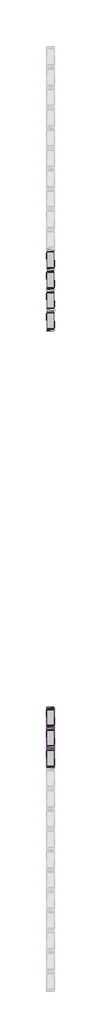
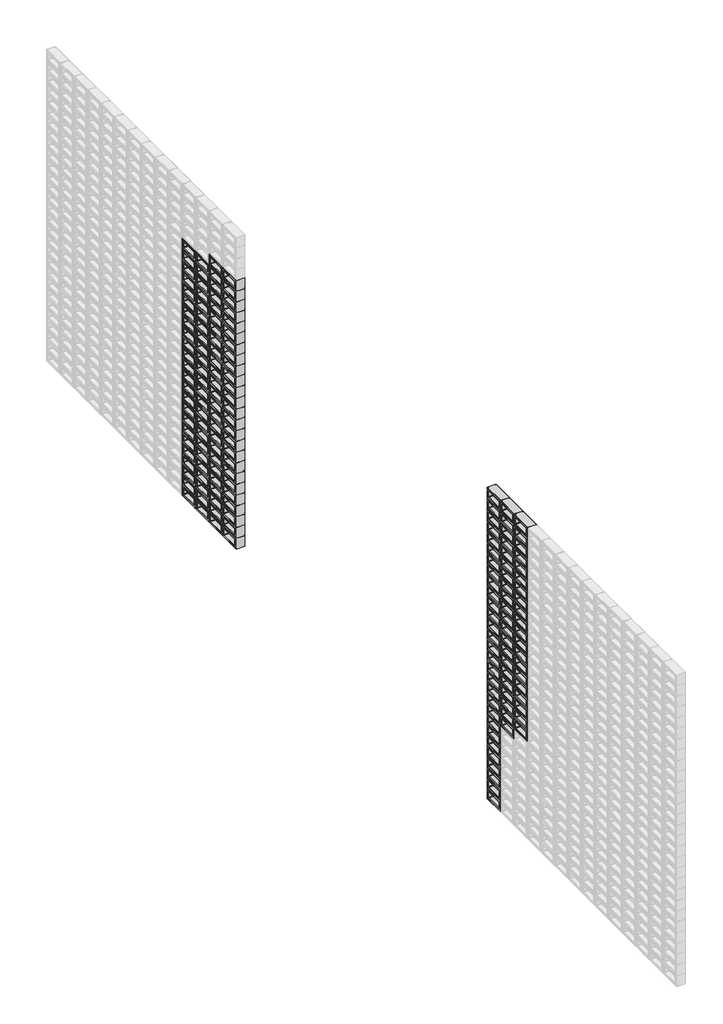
# One storey, part 3 of 59: 168 plates.
"""IFC4 building model written with IfcOpenShell, lengths in millimetres."""

from ifc_helpers import new_model, si_unit, origin, place, context, project, spatial, transform, mapped, element, save
from components import plate_12236348

model = new_model("IFC4")

# Units and contexts
model_context = context("Model", 3, world=origin())
ifc_project = project(units=[si_unit("LENGTHUNIT", "METRE", prefix="MILLI")], contexts=[model_context])

# Site, building, storey
site = spatial("IfcSite", under=ifc_project)
building = spatial("IfcBuilding", under=site)
storey = spatial("IfcBuildingStorey", under=building, Name="PORTOBELLO - SHOWROOM", Elevation=0.0)

# Plates
placement = place(None, origin())
plate_shape = plate_12236348(model_context)
element("IfcPlate", 1, ObjectType="PBSHOP - ON FIRE PEPPERMINT 9X19 (PAINEL CORTINA) : PEPPERMINT", at=placement, inside=storey, context=model_context, shape_type="MappedRepresentation", body=[
    mapped(plate_shape, transform((-33705.5633853, -2683.9877275, 0.0), x_axis=(0.0, 1.0, 0.0), y_axis=(-1.0, 0.0, 0.0), z_axis=(0.0, 0.0, 1.0))),
])
element("IfcPlate", 2, ObjectType="PBSHOP - ON FIRE PEPPERMINT 9X19 (PAINEL CORTINA) : PEPPERMINT", at=placement, inside=storey, context=model_context, shape_type="MappedRepresentation", body=[
    mapped(plate_shape, transform((-33705.5633853, -2489.9877273, 0.0), x_axis=(0.0, 1.0, 0.0), y_axis=(-1.0, 0.0, 0.0), z_axis=(0.0, 0.0, 1.0))),
])
element("IfcPlate", 3, ObjectType="PBSHOP - ON FIRE PEPPERMINT 9X19 (PAINEL CORTINA) : PEPPERMINT", at=placement, inside=storey, context=model_context, shape_type="MappedRepresentation", body=[
    mapped(plate_shape, transform((-33705.5633853, -2295.9877273, 0.0), x_axis=(0.0, 1.0, 0.0), y_axis=(-1.0, 0.0, 0.0), z_axis=(0.0, 0.0, 1.0))),
])
element("IfcPlate", 4, ObjectType="PBSHOP - ON FIRE PEPPERMINT 9X19 (PAINEL CORTINA) : PEPPERMINT", at=placement, inside=storey, context=model_context, shape_type="MappedRepresentation", body=[
    mapped(plate_shape, transform((-33705.5633853, -2101.9877273, 0.0), x_axis=(0.0, 1.0, 0.0), y_axis=(-1.0, 0.0, 0.0), z_axis=(0.0, 0.0, 1.0))),
])
element("IfcPlate", 5, ObjectType="PBSHOP - ON FIRE PEPPERMINT 9X19 (PAINEL CORTINA) : PEPPERMINT", at=placement, inside=storey, context=model_context, shape_type="MappedRepresentation", body=[
    mapped(plate_shape, transform((-33705.5633853, -2683.9877275, 94.0), x_axis=(0.0, 1.0, 0.0), y_axis=(-1.0, 0.0, 0.0), z_axis=(0.0, 0.0, 1.0))),
])
element("IfcPlate", 6, ObjectType="PBSHOP - ON FIRE PEPPERMINT 9X19 (PAINEL CORTINA) : PEPPERMINT", at=placement, inside=storey, context=model_context, shape_type="MappedRepresentation", body=[
    mapped(plate_shape, transform((-33705.5633853, -2489.9877273, 94.0), x_axis=(0.0, 1.0, 0.0), y_axis=(-1.0, 0.0, 0.0), z_axis=(0.0, 0.0, 1.0))),
])
element("IfcPlate", 7, ObjectType="PBSHOP - ON FIRE PEPPERMINT 9X19 (PAINEL CORTINA) : PEPPERMINT", at=placement, inside=storey, context=model_context, shape_type="MappedRepresentation", body=[
    mapped(plate_shape, transform((-33705.5633853, -2295.9877273, 94.0), x_axis=(0.0, 1.0, 0.0), y_axis=(-1.0, 0.0, 0.0), z_axis=(0.0, 0.0, 1.0))),
])
element("IfcPlate", 8, ObjectType="PBSHOP - ON FIRE PEPPERMINT 9X19 (PAINEL CORTINA) : PEPPERMINT", at=placement, inside=storey, context=model_context, shape_type="MappedRepresentation", body=[
    mapped(plate_shape, transform((-33705.5633853, -2101.9877273, 94.0), x_axis=(0.0, 1.0, 0.0), y_axis=(-1.0, 0.0, 0.0), z_axis=(0.0, 0.0, 1.0))),
])
element("IfcPlate", 9, ObjectType="PBSHOP - ON FIRE PEPPERMINT 9X19 (PAINEL CORTINA) : PEPPERMINT", at=placement, inside=storey, context=model_context, shape_type="MappedRepresentation", body=[
    mapped(plate_shape, transform((-33705.5633853, -2683.9877275, 188.0), x_axis=(0.0, 1.0, 0.0), y_axis=(-1.0, 0.0, 0.0), z_axis=(0.0, 0.0, 1.0))),
])
element("IfcPlate", 10, ObjectType="PBSHOP - ON FIRE PEPPERMINT 9X19 (PAINEL CORTINA) : PEPPERMINT", at=placement, inside=storey, context=model_context, shape_type="MappedRepresentation", body=[
    mapped(plate_shape, transform((-33705.5633853, -2489.9877273, 188.0), x_axis=(0.0, 1.0, 0.0), y_axis=(-1.0, 0.0, 0.0), z_axis=(0.0, 0.0, 1.0))),
])
element("IfcPlate", 11, ObjectType="PBSHOP - ON FIRE PEPPERMINT 9X19 (PAINEL CORTINA) : PEPPERMINT", at=placement, inside=storey, context=model_context, shape_type="MappedRepresentation", body=[
    mapped(plate_shape, transform((-33705.5633853, -2295.9877273, 188.0), x_axis=(0.0, 1.0, 0.0), y_axis=(-1.0, 0.0, 0.0), z_axis=(0.0, 0.0, 1.0))),
])
element("IfcPlate", 12, ObjectType="PBSHOP - ON FIRE PEPPERMINT 9X19 (PAINEL CORTINA) : PEPPERMINT", at=placement, inside=storey, context=model_context, shape_type="MappedRepresentation", body=[
    mapped(plate_shape, transform((-33705.5633853, -2101.9877273, 188.0), x_axis=(0.0, 1.0, 0.0), y_axis=(-1.0, 0.0, 0.0), z_axis=(0.0, 0.0, 1.0))),
])
element("IfcPlate", 13, ObjectType="PBSHOP - ON FIRE PEPPERMINT 9X19 (PAINEL CORTINA) : PEPPERMINT", at=placement, inside=storey, context=model_context, shape_type="MappedRepresentation", body=[
    mapped(plate_shape, transform((-33705.5633853, -2683.9877275, 282.0), x_axis=(0.0, 1.0, 0.0), y_axis=(-1.0, 0.0, 0.0), z_axis=(0.0, 0.0, 1.0))),
])
element("IfcPlate", 14, ObjectType="PBSHOP - ON FIRE PEPPERMINT 9X19 (PAINEL CORTINA) : PEPPERMINT", at=placement, inside=storey, context=model_context, shape_type="MappedRepresentation", body=[
    mapped(plate_shape, transform((-33705.5633853, -2489.9877273, 282.0), x_axis=(0.0, 1.0, 0.0), y_axis=(-1.0, 0.0, 0.0), z_axis=(0.0, 0.0, 1.0))),
])
element("IfcPlate", 15, ObjectType="PBSHOP - ON FIRE PEPPERMINT 9X19 (PAINEL CORTINA) : PEPPERMINT", at=placement, inside=storey, context=model_context, shape_type="MappedRepresentation", body=[
    mapped(plate_shape, transform((-33705.5633853, -2295.9877273, 282.0), x_axis=(0.0, 1.0, 0.0), y_axis=(-1.0, 0.0, 0.0), z_axis=(0.0, 0.0, 1.0))),
])
element("IfcPlate", 16, ObjectType="PBSHOP - ON FIRE PEPPERMINT 9X19 (PAINEL CORTINA) : PEPPERMINT", at=placement, inside=storey, context=model_context, shape_type="MappedRepresentation", body=[
    mapped(plate_shape, transform((-33705.5633853, -2101.9877273, 282.0), x_axis=(0.0, 1.0, 0.0), y_axis=(-1.0, 0.0, 0.0), z_axis=(0.0, 0.0, 1.0))),
])
element("IfcPlate", 17, ObjectType="PBSHOP - ON FIRE PEPPERMINT 9X19 (PAINEL CORTINA) : PEPPERMINT", at=placement, inside=storey, context=model_context, shape_type="MappedRepresentation", body=[
    mapped(plate_shape, transform((-33705.5633853, -2683.9877275, 376.0), x_axis=(0.0, 1.0, 0.0), y_axis=(-1.0, 0.0, 0.0), z_axis=(0.0, 0.0, 1.0))),
])
element("IfcPlate", 18, ObjectType="PBSHOP - ON FIRE PEPPERMINT 9X19 (PAINEL CORTINA) : PEPPERMINT", at=placement, inside=storey, context=model_context, shape_type="MappedRepresentation", body=[
    mapped(plate_shape, transform((-33705.5633853, -2489.9877273, 376.0), x_axis=(0.0, 1.0, 0.0), y_axis=(-1.0, 0.0, 0.0), z_axis=(0.0, 0.0, 1.0))),
])
element("IfcPlate", 19, ObjectType="PBSHOP - ON FIRE PEPPERMINT 9X19 (PAINEL CORTINA) : PEPPERMINT", at=placement, inside=storey, context=model_context, shape_type="MappedRepresentation", body=[
    mapped(plate_shape, transform((-33705.5633853, -2295.9877273, 376.0), x_axis=(0.0, 1.0, 0.0), y_axis=(-1.0, 0.0, 0.0), z_axis=(0.0, 0.0, 1.0))),
])
element("IfcPlate", 20, ObjectType="PBSHOP - ON FIRE PEPPERMINT 9X19 (PAINEL CORTINA) : PEPPERMINT", at=placement, inside=storey, context=model_context, shape_type="MappedRepresentation", body=[
    mapped(plate_shape, transform((-33705.5633853, -2101.9877273, 376.0), x_axis=(0.0, 1.0, 0.0), y_axis=(-1.0, 0.0, 0.0), z_axis=(0.0, 0.0, 1.0))),
])
element("IfcPlate", 21, ObjectType="PBSHOP - ON FIRE PEPPERMINT 9X19 (PAINEL CORTINA) : PEPPERMINT", at=placement, inside=storey, context=model_context, shape_type="MappedRepresentation", body=[
    mapped(plate_shape, transform((-33705.5633853, -2683.9877275, 470.0), x_axis=(0.0, 1.0, 0.0), y_axis=(-1.0, 0.0, 0.0), z_axis=(0.0, 0.0, 1.0))),
])
element("IfcPlate", 22, ObjectType="PBSHOP - ON FIRE PEPPERMINT 9X19 (PAINEL CORTINA) : PEPPERMINT", at=placement, inside=storey, context=model_context, shape_type="MappedRepresentation", body=[
    mapped(plate_shape, transform((-33705.5633853, -2489.9877273, 470.0), x_axis=(0.0, 1.0, 0.0), y_axis=(-1.0, 0.0, 0.0), z_axis=(0.0, 0.0, 1.0))),
])
element("IfcPlate", 23, ObjectType="PBSHOP - ON FIRE PEPPERMINT 9X19 (PAINEL CORTINA) : PEPPERMINT", at=placement, inside=storey, context=model_context, shape_type="MappedRepresentation", body=[
    mapped(plate_shape, transform((-33705.5633853, -2295.9877273, 470.0), x_axis=(0.0, 1.0, 0.0), y_axis=(-1.0, 0.0, 0.0), z_axis=(0.0, 0.0, 1.0))),
])
element("IfcPlate", 24, ObjectType="PBSHOP - ON FIRE PEPPERMINT 9X19 (PAINEL CORTINA) : PEPPERMINT", at=placement, inside=storey, context=model_context, shape_type="MappedRepresentation", body=[
    mapped(plate_shape, transform((-33705.5633853, -2101.9877273, 470.0), x_axis=(0.0, 1.0, 0.0), y_axis=(-1.0, 0.0, 0.0), z_axis=(0.0, 0.0, 1.0))),
])
element("IfcPlate", 25, ObjectType="PBSHOP - ON FIRE PEPPERMINT 9X19 (PAINEL CORTINA) : PEPPERMINT", at=placement, inside=storey, context=model_context, shape_type="MappedRepresentation", body=[
    mapped(plate_shape, transform((-33705.5633853, -2683.9877275, 564.0), x_axis=(0.0, 1.0, 0.0), y_axis=(-1.0, 0.0, 0.0), z_axis=(0.0, 0.0, 1.0))),
])
element("IfcPlate", 26, ObjectType="PBSHOP - ON FIRE PEPPERMINT 9X19 (PAINEL CORTINA) : PEPPERMINT", at=placement, inside=storey, context=model_context, shape_type="MappedRepresentation", body=[
    mapped(plate_shape, transform((-33705.5633853, -2489.9877273, 564.0), x_axis=(0.0, 1.0, 0.0), y_axis=(-1.0, 0.0, 0.0), z_axis=(0.0, 0.0, 1.0))),
])
element("IfcPlate", 27, ObjectType="PBSHOP - ON FIRE PEPPERMINT 9X19 (PAINEL CORTINA) : PEPPERMINT", at=placement, inside=storey, context=model_context, shape_type="MappedRepresentation", body=[
    mapped(plate_shape, transform((-33705.5633853, -2295.9877273, 564.0), x_axis=(0.0, 1.0, 0.0), y_axis=(-1.0, 0.0, 0.0), z_axis=(0.0, 0.0, 1.0))),
])
element("IfcPlate", 28, ObjectType="PBSHOP - ON FIRE PEPPERMINT 9X19 (PAINEL CORTINA) : PEPPERMINT", at=placement, inside=storey, context=model_context, shape_type="MappedRepresentation", body=[
    mapped(plate_shape, transform((-33705.5633853, -2101.9877273, 564.0), x_axis=(0.0, 1.0, 0.0), y_axis=(-1.0, 0.0, 0.0), z_axis=(0.0, 0.0, 1.0))),
])
element("IfcPlate", 29, ObjectType="PBSHOP - ON FIRE PEPPERMINT 9X19 (PAINEL CORTINA) : PEPPERMINT", at=placement, inside=storey, context=model_context, shape_type="MappedRepresentation", body=[
    mapped(plate_shape, transform((-33705.5633853, -2683.9877275, 658.0), x_axis=(0.0, 1.0, 0.0), y_axis=(-1.0, 0.0, 0.0), z_axis=(0.0, 0.0, 1.0))),
])
element("IfcPlate", 30, ObjectType="PBSHOP - ON FIRE PEPPERMINT 9X19 (PAINEL CORTINA) : PEPPERMINT", at=placement, inside=storey, context=model_context, shape_type="MappedRepresentation", body=[
    mapped(plate_shape, transform((-33705.5633853, -2489.9877273, 658.0), x_axis=(0.0, 1.0, 0.0), y_axis=(-1.0, 0.0, 0.0), z_axis=(0.0, 0.0, 1.0))),
])
element("IfcPlate", 31, ObjectType="PBSHOP - ON FIRE PEPPERMINT 9X19 (PAINEL CORTINA) : PEPPERMINT", at=placement, inside=storey, context=model_context, shape_type="MappedRepresentation", body=[
    mapped(plate_shape, transform((-33705.5633853, -2295.9877273, 658.0), x_axis=(0.0, 1.0, 0.0), y_axis=(-1.0, 0.0, 0.0), z_axis=(0.0, 0.0, 1.0))),
])
element("IfcPlate", 32, ObjectType="PBSHOP - ON FIRE PEPPERMINT 9X19 (PAINEL CORTINA) : PEPPERMINT", at=placement, inside=storey, context=model_context, shape_type="MappedRepresentation", body=[
    mapped(plate_shape, transform((-33705.5633853, -2101.9877273, 658.0), x_axis=(0.0, 1.0, 0.0), y_axis=(-1.0, 0.0, 0.0), z_axis=(0.0, 0.0, 1.0))),
])
element("IfcPlate", 33, ObjectType="PBSHOP - ON FIRE PEPPERMINT 9X19 (PAINEL CORTINA) : PEPPERMINT", at=placement, inside=storey, context=model_context, shape_type="MappedRepresentation", body=[
    mapped(plate_shape, transform((-33705.5633853, -2683.9877275, 752.0), x_axis=(0.0, 1.0, 0.0), y_axis=(-1.0, 0.0, 0.0), z_axis=(0.0, 0.0, 1.0))),
])
element("IfcPlate", 34, ObjectType="PBSHOP - ON FIRE PEPPERMINT 9X19 (PAINEL CORTINA) : PEPPERMINT", at=placement, inside=storey, context=model_context, shape_type="MappedRepresentation", body=[
    mapped(plate_shape, transform((-33705.5633853, -2489.9877273, 752.0), x_axis=(0.0, 1.0, 0.0), y_axis=(-1.0, 0.0, 0.0), z_axis=(0.0, 0.0, 1.0))),
])
element("IfcPlate", 35, ObjectType="PBSHOP - ON FIRE PEPPERMINT 9X19 (PAINEL CORTINA) : PEPPERMINT", at=placement, inside=storey, context=model_context, shape_type="MappedRepresentation", body=[
    mapped(plate_shape, transform((-33705.5633853, -2295.9877273, 752.0), x_axis=(0.0, 1.0, 0.0), y_axis=(-1.0, 0.0, 0.0), z_axis=(0.0, 0.0, 1.0))),
])
element("IfcPlate", 36, ObjectType="PBSHOP - ON FIRE PEPPERMINT 9X19 (PAINEL CORTINA) : PEPPERMINT", at=placement, inside=storey, context=model_context, shape_type="MappedRepresentation", body=[
    mapped(plate_shape, transform((-33705.5633853, -2101.9877273, 752.0), x_axis=(0.0, 1.0, 0.0), y_axis=(-1.0, 0.0, 0.0), z_axis=(0.0, 0.0, 1.0))),
])
element("IfcPlate", 37, ObjectType="PBSHOP - ON FIRE PEPPERMINT 9X19 (PAINEL CORTINA) : PEPPERMINT", at=placement, inside=storey, context=model_context, shape_type="MappedRepresentation", body=[
    mapped(plate_shape, transform((-33705.5633853, -2683.9877275, 846.0), x_axis=(0.0, 1.0, 0.0), y_axis=(-1.0, 0.0, 0.0), z_axis=(0.0, 0.0, 1.0))),
])
element("IfcPlate", 38, ObjectType="PBSHOP - ON FIRE PEPPERMINT 9X19 (PAINEL CORTINA) : PEPPERMINT", at=placement, inside=storey, context=model_context, shape_type="MappedRepresentation", body=[
    mapped(plate_shape, transform((-33705.5633853, -2489.9877273, 846.0), x_axis=(0.0, 1.0, 0.0), y_axis=(-1.0, 0.0, 0.0), z_axis=(0.0, 0.0, 1.0))),
])
element("IfcPlate", 39, ObjectType="PBSHOP - ON FIRE PEPPERMINT 9X19 (PAINEL CORTINA) : PEPPERMINT", at=placement, inside=storey, context=model_context, shape_type="MappedRepresentation", body=[
    mapped(plate_shape, transform((-33705.5633853, -2295.9877273, 846.0), x_axis=(0.0, 1.0, 0.0), y_axis=(-1.0, 0.0, 0.0), z_axis=(0.0, 0.0, 1.0))),
])
element("IfcPlate", 40, ObjectType="PBSHOP - ON FIRE PEPPERMINT 9X19 (PAINEL CORTINA) : PEPPERMINT", at=placement, inside=storey, context=model_context, shape_type="MappedRepresentation", body=[
    mapped(plate_shape, transform((-33705.5633853, -2101.9877273, 846.0), x_axis=(0.0, 1.0, 0.0), y_axis=(-1.0, 0.0, 0.0), z_axis=(0.0, 0.0, 1.0))),
])
element("IfcPlate", 41, ObjectType="PBSHOP - ON FIRE PEPPERMINT 9X19 (PAINEL CORTINA) : PEPPERMINT", at=placement, inside=storey, context=model_context, shape_type="MappedRepresentation", body=[
    mapped(plate_shape, transform((-33705.5633853, -2683.9877275, 940.0), x_axis=(0.0, 1.0, 0.0), y_axis=(-1.0, 0.0, 0.0), z_axis=(0.0, 0.0, 1.0))),
])
element("IfcPlate", 42, ObjectType="PBSHOP - ON FIRE PEPPERMINT 9X19 (PAINEL CORTINA) : PEPPERMINT", at=placement, inside=storey, context=model_context, shape_type="MappedRepresentation", body=[
    mapped(plate_shape, transform((-33705.5633853, -2489.9877273, 940.0), x_axis=(0.0, 1.0, 0.0), y_axis=(-1.0, 0.0, 0.0), z_axis=(0.0, 0.0, 1.0))),
])
element("IfcPlate", 43, ObjectType="PBSHOP - ON FIRE PEPPERMINT 9X19 (PAINEL CORTINA) : PEPPERMINT", at=placement, inside=storey, context=model_context, shape_type="MappedRepresentation", body=[
    mapped(plate_shape, transform((-33705.5633853, -2295.9877273, 940.0), x_axis=(0.0, 1.0, 0.0), y_axis=(-1.0, 0.0, 0.0), z_axis=(0.0, 0.0, 1.0))),
])
element("IfcPlate", 44, ObjectType="PBSHOP - ON FIRE PEPPERMINT 9X19 (PAINEL CORTINA) : PEPPERMINT", at=placement, inside=storey, context=model_context, shape_type="MappedRepresentation", body=[
    mapped(plate_shape, transform((-33705.5633853, -2101.9877273, 940.0), x_axis=(0.0, 1.0, 0.0), y_axis=(-1.0, 0.0, 0.0), z_axis=(0.0, 0.0, 1.0))),
])
element("IfcPlate", 45, ObjectType="PBSHOP - ON FIRE PEPPERMINT 9X19 (PAINEL CORTINA) : PEPPERMINT", at=placement, inside=storey, context=model_context, shape_type="MappedRepresentation", body=[
    mapped(plate_shape, transform((-33705.5633853, -2683.9877275, 1034.0), x_axis=(0.0, 1.0, 0.0), y_axis=(-1.0, 0.0, 0.0), z_axis=(0.0, 0.0, 1.0))),
])
element("IfcPlate", 46, ObjectType="PBSHOP - ON FIRE PEPPERMINT 9X19 (PAINEL CORTINA) : PEPPERMINT", at=placement, inside=storey, context=model_context, shape_type="MappedRepresentation", body=[
    mapped(plate_shape, transform((-33705.5633853, -2489.9877273, 1034.0), x_axis=(0.0, 1.0, 0.0), y_axis=(-1.0, 0.0, 0.0), z_axis=(0.0, 0.0, 1.0))),
])
element("IfcPlate", 47, ObjectType="PBSHOP - ON FIRE PEPPERMINT 9X19 (PAINEL CORTINA) : PEPPERMINT", at=placement, inside=storey, context=model_context, shape_type="MappedRepresentation", body=[
    mapped(plate_shape, transform((-33705.5633853, -2295.9877273, 1034.0), x_axis=(0.0, 1.0, 0.0), y_axis=(-1.0, 0.0, 0.0), z_axis=(0.0, 0.0, 1.0))),
])
element("IfcPlate", 48, ObjectType="PBSHOP - ON FIRE PEPPERMINT 9X19 (PAINEL CORTINA) : PEPPERMINT", at=placement, inside=storey, context=model_context, shape_type="MappedRepresentation", body=[
    mapped(plate_shape, transform((-33705.5633853, -2101.9877273, 1034.0), x_axis=(0.0, 1.0, 0.0), y_axis=(-1.0, 0.0, 0.0), z_axis=(0.0, 0.0, 1.0))),
])
element("IfcPlate", 49, ObjectType="PBSHOP - ON FIRE PEPPERMINT 9X19 (PAINEL CORTINA) : PEPPERMINT", at=placement, inside=storey, context=model_context, shape_type="MappedRepresentation", body=[
    mapped(plate_shape, transform((-33705.5633853, -2683.9877275, 1128.0), x_axis=(0.0, 1.0, 0.0), y_axis=(-1.0, 0.0, 0.0), z_axis=(0.0, 0.0, 1.0))),
])
element("IfcPlate", 50, ObjectType="PBSHOP - ON FIRE PEPPERMINT 9X19 (PAINEL CORTINA) : PEPPERMINT", at=placement, inside=storey, context=model_context, shape_type="MappedRepresentation", body=[
    mapped(plate_shape, transform((-33705.5633853, -2489.9877273, 1128.0), x_axis=(0.0, 1.0, 0.0), y_axis=(-1.0, 0.0, 0.0), z_axis=(0.0, 0.0, 1.0))),
])
element("IfcPlate", 51, ObjectType="PBSHOP - ON FIRE PEPPERMINT 9X19 (PAINEL CORTINA) : PEPPERMINT", at=placement, inside=storey, context=model_context, shape_type="MappedRepresentation", body=[
    mapped(plate_shape, transform((-33705.5633853, -2295.9877273, 1128.0), x_axis=(0.0, 1.0, 0.0), y_axis=(-1.0, 0.0, 0.0), z_axis=(0.0, 0.0, 1.0))),
])
element("IfcPlate", 52, ObjectType="PBSHOP - ON FIRE PEPPERMINT 9X19 (PAINEL CORTINA) : PEPPERMINT", at=placement, inside=storey, context=model_context, shape_type="MappedRepresentation", body=[
    mapped(plate_shape, transform((-33705.5633853, -2101.9877273, 1128.0), x_axis=(0.0, 1.0, 0.0), y_axis=(-1.0, 0.0, 0.0), z_axis=(0.0, 0.0, 1.0))),
])
element("IfcPlate", 53, ObjectType="PBSHOP - ON FIRE PEPPERMINT 9X19 (PAINEL CORTINA) : PEPPERMINT", at=placement, inside=storey, context=model_context, shape_type="MappedRepresentation", body=[
    mapped(plate_shape, transform((-33705.5633853, -2683.9877275, 1222.0), x_axis=(0.0, 1.0, 0.0), y_axis=(-1.0, 0.0, 0.0), z_axis=(0.0, 0.0, 1.0))),
])
element("IfcPlate", 54, ObjectType="PBSHOP - ON FIRE PEPPERMINT 9X19 (PAINEL CORTINA) : PEPPERMINT", at=placement, inside=storey, context=model_context, shape_type="MappedRepresentation", body=[
    mapped(plate_shape, transform((-33705.5633853, -2489.9877273, 1222.0), x_axis=(0.0, 1.0, 0.0), y_axis=(-1.0, 0.0, 0.0), z_axis=(0.0, 0.0, 1.0))),
])
element("IfcPlate", 55, ObjectType="PBSHOP - ON FIRE PEPPERMINT 9X19 (PAINEL CORTINA) : PEPPERMINT", at=placement, inside=storey, context=model_context, shape_type="MappedRepresentation", body=[
    mapped(plate_shape, transform((-33705.5633853, -2295.9877273, 1222.0), x_axis=(0.0, 1.0, 0.0), y_axis=(-1.0, 0.0, 0.0), z_axis=(0.0, 0.0, 1.0))),
])
element("IfcPlate", 56, ObjectType="PBSHOP - ON FIRE PEPPERMINT 9X19 (PAINEL CORTINA) : PEPPERMINT", at=placement, inside=storey, context=model_context, shape_type="MappedRepresentation", body=[
    mapped(plate_shape, transform((-33705.5633853, -2101.9877273, 1222.0), x_axis=(0.0, 1.0, 0.0), y_axis=(-1.0, 0.0, 0.0), z_axis=(0.0, 0.0, 1.0))),
])
element("IfcPlate", 57, ObjectType="PBSHOP - ON FIRE PEPPERMINT 9X19 (PAINEL CORTINA) : PEPPERMINT", at=placement, inside=storey, context=model_context, shape_type="MappedRepresentation", body=[
    mapped(plate_shape, transform((-33705.5633853, -2683.9877275, 1316.0), x_axis=(0.0, 1.0, 0.0), y_axis=(-1.0, 0.0, 0.0), z_axis=(0.0, 0.0, 1.0))),
])
element("IfcPlate", 58, ObjectType="PBSHOP - ON FIRE PEPPERMINT 9X19 (PAINEL CORTINA) : PEPPERMINT", at=placement, inside=storey, context=model_context, shape_type="MappedRepresentation", body=[
    mapped(plate_shape, transform((-33705.5633853, -2489.9877273, 1316.0), x_axis=(0.0, 1.0, 0.0), y_axis=(-1.0, 0.0, 0.0), z_axis=(0.0, 0.0, 1.0))),
])
element("IfcPlate", 59, ObjectType="PBSHOP - ON FIRE PEPPERMINT 9X19 (PAINEL CORTINA) : PEPPERMINT", at=placement, inside=storey, context=model_context, shape_type="MappedRepresentation", body=[
    mapped(plate_shape, transform((-33705.5633853, -2295.9877273, 1316.0), x_axis=(0.0, 1.0, 0.0), y_axis=(-1.0, 0.0, 0.0), z_axis=(0.0, 0.0, 1.0))),
])
element("IfcPlate", 60, ObjectType="PBSHOP - ON FIRE PEPPERMINT 9X19 (PAINEL CORTINA) : PEPPERMINT", at=placement, inside=storey, context=model_context, shape_type="MappedRepresentation", body=[
    mapped(plate_shape, transform((-33705.5633853, -2101.9877273, 1316.0), x_axis=(0.0, 1.0, 0.0), y_axis=(-1.0, 0.0, 0.0), z_axis=(0.0, 0.0, 1.0))),
])
element("IfcPlate", 61, ObjectType="PBSHOP - ON FIRE PEPPERMINT 9X19 (PAINEL CORTINA) : PEPPERMINT", at=placement, inside=storey, context=model_context, shape_type="MappedRepresentation", body=[
    mapped(plate_shape, transform((-33705.5633853, -2683.9877275, 1410.0), x_axis=(0.0, 1.0, 0.0), y_axis=(-1.0, 0.0, 0.0), z_axis=(0.0, 0.0, 1.0))),
])
element("IfcPlate", 62, ObjectType="PBSHOP - ON FIRE PEPPERMINT 9X19 (PAINEL CORTINA) : PEPPERMINT", at=placement, inside=storey, context=model_context, shape_type="MappedRepresentation", body=[
    mapped(plate_shape, transform((-33705.5633853, -2489.9877273, 1410.0), x_axis=(0.0, 1.0, 0.0), y_axis=(-1.0, 0.0, 0.0), z_axis=(0.0, 0.0, 1.0))),
])
element("IfcPlate", 63, ObjectType="PBSHOP - ON FIRE PEPPERMINT 9X19 (PAINEL CORTINA) : PEPPERMINT", at=placement, inside=storey, context=model_context, shape_type="MappedRepresentation", body=[
    mapped(plate_shape, transform((-33705.5633853, -2295.9877273, 1410.0), x_axis=(0.0, 1.0, 0.0), y_axis=(-1.0, 0.0, 0.0), z_axis=(0.0, 0.0, 1.0))),
])
element("IfcPlate", 64, ObjectType="PBSHOP - ON FIRE PEPPERMINT 9X19 (PAINEL CORTINA) : PEPPERMINT", at=placement, inside=storey, context=model_context, shape_type="MappedRepresentation", body=[
    mapped(plate_shape, transform((-33705.5633853, -2101.9877273, 1410.0), x_axis=(0.0, 1.0, 0.0), y_axis=(-1.0, 0.0, 0.0), z_axis=(0.0, 0.0, 1.0))),
])
element("IfcPlate", 65, ObjectType="PBSHOP - ON FIRE PEPPERMINT 9X19 (PAINEL CORTINA) : PEPPERMINT", at=placement, inside=storey, context=model_context, shape_type="MappedRepresentation", body=[
    mapped(plate_shape, transform((-33705.5633853, -2683.9877275, 1504.0), x_axis=(0.0, 1.0, 0.0), y_axis=(-1.0, 0.0, 0.0), z_axis=(0.0, 0.0, 1.0))),
])
element("IfcPlate", 66, ObjectType="PBSHOP - ON FIRE PEPPERMINT 9X19 (PAINEL CORTINA) : PEPPERMINT", at=placement, inside=storey, context=model_context, shape_type="MappedRepresentation", body=[
    mapped(plate_shape, transform((-33705.5633853, -2489.9877273, 1504.0), x_axis=(0.0, 1.0, 0.0), y_axis=(-1.0, 0.0, 0.0), z_axis=(0.0, 0.0, 1.0))),
])
element("IfcPlate", 67, ObjectType="PBSHOP - ON FIRE PEPPERMINT 9X19 (PAINEL CORTINA) : PEPPERMINT", at=placement, inside=storey, context=model_context, shape_type="MappedRepresentation", body=[
    mapped(plate_shape, transform((-33705.5633853, -2295.9877273, 1504.0), x_axis=(0.0, 1.0, 0.0), y_axis=(-1.0, 0.0, 0.0), z_axis=(0.0, 0.0, 1.0))),
])
element("IfcPlate", 68, ObjectType="PBSHOP - ON FIRE PEPPERMINT 9X19 (PAINEL CORTINA) : PEPPERMINT", at=placement, inside=storey, context=model_context, shape_type="MappedRepresentation", body=[
    mapped(plate_shape, transform((-33705.5633853, -2101.9877273, 1504.0), x_axis=(0.0, 1.0, 0.0), y_axis=(-1.0, 0.0, 0.0), z_axis=(0.0, 0.0, 1.0))),
])
element("IfcPlate", 69, ObjectType="PBSHOP - ON FIRE PEPPERMINT 9X19 (PAINEL CORTINA) : PEPPERMINT", at=placement, inside=storey, context=model_context, shape_type="MappedRepresentation", body=[
    mapped(plate_shape, transform((-33705.5633853, -2683.9877275, 1598.0), x_axis=(0.0, 1.0, 0.0), y_axis=(-1.0, 0.0, 0.0), z_axis=(0.0, 0.0, 1.0))),
])
element("IfcPlate", 70, ObjectType="PBSHOP - ON FIRE PEPPERMINT 9X19 (PAINEL CORTINA) : PEPPERMINT", at=placement, inside=storey, context=model_context, shape_type="MappedRepresentation", body=[
    mapped(plate_shape, transform((-33705.5633853, -2489.9877273, 1598.0), x_axis=(0.0, 1.0, 0.0), y_axis=(-1.0, 0.0, 0.0), z_axis=(0.0, 0.0, 1.0))),
])
element("IfcPlate", 71, ObjectType="PBSHOP - ON FIRE PEPPERMINT 9X19 (PAINEL CORTINA) : PEPPERMINT", at=placement, inside=storey, context=model_context, shape_type="MappedRepresentation", body=[
    mapped(plate_shape, transform((-33705.5633853, -2295.9877273, 1598.0), x_axis=(0.0, 1.0, 0.0), y_axis=(-1.0, 0.0, 0.0), z_axis=(0.0, 0.0, 1.0))),
])
element("IfcPlate", 72, ObjectType="PBSHOP - ON FIRE PEPPERMINT 9X19 (PAINEL CORTINA) : PEPPERMINT", at=placement, inside=storey, context=model_context, shape_type="MappedRepresentation", body=[
    mapped(plate_shape, transform((-33705.5633853, -2101.9877273, 1598.0), x_axis=(0.0, 1.0, 0.0), y_axis=(-1.0, 0.0, 0.0), z_axis=(0.0, 0.0, 1.0))),
])
element("IfcPlate", 73, ObjectType="PBSHOP - ON FIRE PEPPERMINT 9X19 (PAINEL CORTINA) : PEPPERMINT", at=placement, inside=storey, context=model_context, shape_type="MappedRepresentation", body=[
    mapped(plate_shape, transform((-33705.5633853, -2683.9877275, 1692.0), x_axis=(0.0, 1.0, 0.0), y_axis=(-1.0, 0.0, 0.0), z_axis=(0.0, 0.0, 1.0))),
])
element("IfcPlate", 74, ObjectType="PBSHOP - ON FIRE PEPPERMINT 9X19 (PAINEL CORTINA) : PEPPERMINT", at=placement, inside=storey, context=model_context, shape_type="MappedRepresentation", body=[
    mapped(plate_shape, transform((-33705.5633853, -2489.9877273, 1692.0), x_axis=(0.0, 1.0, 0.0), y_axis=(-1.0, 0.0, 0.0), z_axis=(0.0, 0.0, 1.0))),
])
element("IfcPlate", 75, ObjectType="PBSHOP - ON FIRE PEPPERMINT 9X19 (PAINEL CORTINA) : PEPPERMINT", at=placement, inside=storey, context=model_context, shape_type="MappedRepresentation", body=[
    mapped(plate_shape, transform((-33705.5633853, -2295.9877273, 1692.0), x_axis=(0.0, 1.0, 0.0), y_axis=(-1.0, 0.0, 0.0), z_axis=(0.0, 0.0, 1.0))),
])
element("IfcPlate", 76, ObjectType="PBSHOP - ON FIRE PEPPERMINT 9X19 (PAINEL CORTINA) : PEPPERMINT", at=placement, inside=storey, context=model_context, shape_type="MappedRepresentation", body=[
    mapped(plate_shape, transform((-33705.5633853, -2101.9877273, 1692.0), x_axis=(0.0, 1.0, 0.0), y_axis=(-1.0, 0.0, 0.0), z_axis=(0.0, 0.0, 1.0))),
])
element("IfcPlate", 77, ObjectType="PBSHOP - ON FIRE PEPPERMINT 9X19 (PAINEL CORTINA) : PEPPERMINT", at=placement, inside=storey, context=model_context, shape_type="MappedRepresentation", body=[
    mapped(plate_shape, transform((-33705.5633853, -2683.9877275, 1786.0), x_axis=(0.0, 1.0, 0.0), y_axis=(-1.0, 0.0, 0.0), z_axis=(0.0, 0.0, 1.0))),
])
element("IfcPlate", 78, ObjectType="PBSHOP - ON FIRE PEPPERMINT 9X19 (PAINEL CORTINA) : PEPPERMINT", at=placement, inside=storey, context=model_context, shape_type="MappedRepresentation", body=[
    mapped(plate_shape, transform((-33705.5633853, -2489.9877273, 1786.0), x_axis=(0.0, 1.0, 0.0), y_axis=(-1.0, 0.0, 0.0), z_axis=(0.0, 0.0, 1.0))),
])
element("IfcPlate", 79, ObjectType="PBSHOP - ON FIRE PEPPERMINT 9X19 (PAINEL CORTINA) : PEPPERMINT", at=placement, inside=storey, context=model_context, shape_type="MappedRepresentation", body=[
    mapped(plate_shape, transform((-33705.5633853, -2295.9877273, 1786.0), x_axis=(0.0, 1.0, 0.0), y_axis=(-1.0, 0.0, 0.0), z_axis=(0.0, 0.0, 1.0))),
])
element("IfcPlate", 80, ObjectType="PBSHOP - ON FIRE PEPPERMINT 9X19 (PAINEL CORTINA) : PEPPERMINT", at=placement, inside=storey, context=model_context, shape_type="MappedRepresentation", body=[
    mapped(plate_shape, transform((-33705.5633853, -2101.9877273, 1786.0), x_axis=(0.0, 1.0, 0.0), y_axis=(-1.0, 0.0, 0.0), z_axis=(0.0, 0.0, 1.0))),
])
element("IfcPlate", 81, ObjectType="PBSHOP - ON FIRE PEPPERMINT 9X19 (PAINEL CORTINA) : PEPPERMINT", at=placement, inside=storey, context=model_context, shape_type="MappedRepresentation", body=[
    mapped(plate_shape, transform((-33705.5633853, -2683.9877275, 1880.0), x_axis=(0.0, 1.0, 0.0), y_axis=(-1.0, 0.0, 0.0), z_axis=(0.0, 0.0, 1.0))),
])
element("IfcPlate", 82, ObjectType="PBSHOP - ON FIRE PEPPERMINT 9X19 (PAINEL CORTINA) : PEPPERMINT", at=placement, inside=storey, context=model_context, shape_type="MappedRepresentation", body=[
    mapped(plate_shape, transform((-33705.5633853, -2489.9877273, 1880.0), x_axis=(0.0, 1.0, 0.0), y_axis=(-1.0, 0.0, 0.0), z_axis=(0.0, 0.0, 1.0))),
])
element("IfcPlate", 83, ObjectType="PBSHOP - ON FIRE PEPPERMINT 9X19 (PAINEL CORTINA) : PEPPERMINT", at=placement, inside=storey, context=model_context, shape_type="MappedRepresentation", body=[
    mapped(plate_shape, transform((-33705.5633853, -2295.9877273, 1880.0), x_axis=(0.0, 1.0, 0.0), y_axis=(-1.0, 0.0, 0.0), z_axis=(0.0, 0.0, 1.0))),
])
element("IfcPlate", 84, ObjectType="PBSHOP - ON FIRE PEPPERMINT 9X19 (PAINEL CORTINA) : PEPPERMINT", at=placement, inside=storey, context=model_context, shape_type="MappedRepresentation", body=[
    mapped(plate_shape, transform((-33705.5633853, -2101.9877273, 1880.0), x_axis=(0.0, 1.0, 0.0), y_axis=(-1.0, 0.0, 0.0), z_axis=(0.0, 0.0, 1.0))),
])
element("IfcPlate", 85, ObjectType="PBSHOP - ON FIRE PEPPERMINT 9X19 (PAINEL CORTINA) : PEPPERMINT", at=placement, inside=storey, context=model_context, shape_type="MappedRepresentation", body=[
    mapped(plate_shape, transform((-33705.5633853, -2683.9877275, 1974.0), x_axis=(0.0, 1.0, 0.0), y_axis=(-1.0, 0.0, 0.0), z_axis=(0.0, 0.0, 1.0))),
])
element("IfcPlate", 86, ObjectType="PBSHOP - ON FIRE PEPPERMINT 9X19 (PAINEL CORTINA) : PEPPERMINT", at=placement, inside=storey, context=model_context, shape_type="MappedRepresentation", body=[
    mapped(plate_shape, transform((-33705.5633853, -2489.9877273, 1974.0), x_axis=(0.0, 1.0, 0.0), y_axis=(-1.0, 0.0, 0.0), z_axis=(0.0, 0.0, 1.0))),
])
element("IfcPlate", 87, ObjectType="PBSHOP - ON FIRE PEPPERMINT 9X19 (PAINEL CORTINA) : PEPPERMINT", at=placement, inside=storey, context=model_context, shape_type="MappedRepresentation", body=[
    mapped(plate_shape, transform((-33705.5633853, -2295.9877273, 1974.0), x_axis=(0.0, 1.0, 0.0), y_axis=(-1.0, 0.0, 0.0), z_axis=(0.0, 0.0, 1.0))),
])
element("IfcPlate", 88, ObjectType="PBSHOP - ON FIRE PEPPERMINT 9X19 (PAINEL CORTINA) : PEPPERMINT", at=placement, inside=storey, context=model_context, shape_type="MappedRepresentation", body=[
    mapped(plate_shape, transform((-33705.5633853, -2101.9877273, 1974.0), x_axis=(0.0, 1.0, 0.0), y_axis=(-1.0, 0.0, 0.0), z_axis=(0.0, 0.0, 1.0))),
])
element("IfcPlate", 89, ObjectType="PBSHOP - ON FIRE PEPPERMINT 9X19 (PAINEL CORTINA) : PEPPERMINT", at=placement, inside=storey, context=model_context, shape_type="MappedRepresentation", body=[
    mapped(plate_shape, transform((-33705.5633853, -2683.9877275, 2068.0), x_axis=(0.0, 1.0, 0.0), y_axis=(-1.0, 0.0, 0.0), z_axis=(0.0, 0.0, 1.0))),
])
element("IfcPlate", 90, ObjectType="PBSHOP - ON FIRE PEPPERMINT 9X19 (PAINEL CORTINA) : PEPPERMINT", at=placement, inside=storey, context=model_context, shape_type="MappedRepresentation", body=[
    mapped(plate_shape, transform((-33705.5633853, -2489.9877273, 2068.0), x_axis=(0.0, 1.0, 0.0), y_axis=(-1.0, 0.0, 0.0), z_axis=(0.0, 0.0, 1.0))),
])
element("IfcPlate", 91, ObjectType="PBSHOP - ON FIRE PEPPERMINT 9X19 (PAINEL CORTINA) : PEPPERMINT", at=placement, inside=storey, context=model_context, shape_type="MappedRepresentation", body=[
    mapped(plate_shape, transform((-33705.5633853, -2295.9877273, 2068.0), x_axis=(0.0, 1.0, 0.0), y_axis=(-1.0, 0.0, 0.0), z_axis=(0.0, 0.0, 1.0))),
])
element("IfcPlate", 92, ObjectType="PBSHOP - ON FIRE PEPPERMINT 9X19 (PAINEL CORTINA) : PEPPERMINT", at=placement, inside=storey, context=model_context, shape_type="MappedRepresentation", body=[
    mapped(plate_shape, transform((-33705.5633853, -2101.9877273, 2068.0), x_axis=(0.0, 1.0, 0.0), y_axis=(-1.0, 0.0, 0.0), z_axis=(0.0, 0.0, 1.0))),
])
element("IfcPlate", 93, ObjectType="PBSHOP - ON FIRE PEPPERMINT 9X19 (PAINEL CORTINA) : PEPPERMINT", at=placement, inside=storey, context=model_context, shape_type="MappedRepresentation", body=[
    mapped(plate_shape, transform((-33705.5633853, -2683.9877275, 2162.0), x_axis=(0.0, 1.0, 0.0), y_axis=(-1.0, 0.0, 0.0), z_axis=(0.0, 0.0, 1.0))),
])
element("IfcPlate", 94, ObjectType="PBSHOP - ON FIRE PEPPERMINT 9X19 (PAINEL CORTINA) : PEPPERMINT", at=placement, inside=storey, context=model_context, shape_type="MappedRepresentation", body=[
    mapped(plate_shape, transform((-33705.5633853, -2489.9877273, 2162.0), x_axis=(0.0, 1.0, 0.0), y_axis=(-1.0, 0.0, 0.0), z_axis=(0.0, 0.0, 1.0))),
])
element("IfcPlate", 95, ObjectType="PBSHOP - ON FIRE PEPPERMINT 9X19 (PAINEL CORTINA) : PEPPERMINT", at=placement, inside=storey, context=model_context, shape_type="MappedRepresentation", body=[
    mapped(plate_shape, transform((-33705.5633853, -2295.9877273, 2162.0), x_axis=(0.0, 1.0, 0.0), y_axis=(-1.0, 0.0, 0.0), z_axis=(0.0, 0.0, 1.0))),
])
element("IfcPlate", 96, ObjectType="PBSHOP - ON FIRE PEPPERMINT 9X19 (PAINEL CORTINA) : PEPPERMINT", at=placement, inside=storey, context=model_context, shape_type="MappedRepresentation", body=[
    mapped(plate_shape, transform((-33705.5633853, -2101.9877273, 2162.0), x_axis=(0.0, 1.0, 0.0), y_axis=(-1.0, 0.0, 0.0), z_axis=(0.0, 0.0, 1.0))),
])
element("IfcPlate", 97, ObjectType="PBSHOP - ON FIRE PEPPERMINT 9X19 (PAINEL CORTINA) : PEPPERMINT", at=placement, inside=storey, context=model_context, shape_type="MappedRepresentation", body=[
    mapped(plate_shape, transform((-33705.5633853, -2683.9877275, 2256.0), x_axis=(0.0, 1.0, 0.0), y_axis=(-1.0, 0.0, 0.0), z_axis=(0.0, 0.0, 1.0))),
])
element("IfcPlate", 98, ObjectType="PBSHOP - ON FIRE PEPPERMINT 9X19 (PAINEL CORTINA) : PEPPERMINT", at=placement, inside=storey, context=model_context, shape_type="MappedRepresentation", body=[
    mapped(plate_shape, transform((-33705.5633853, -2489.9877273, 2256.0), x_axis=(0.0, 1.0, 0.0), y_axis=(-1.0, 0.0, 0.0), z_axis=(0.0, 0.0, 1.0))),
])
element("IfcPlate", 99, ObjectType="PBSHOP - ON FIRE AURORA 9X19 (PAINEL CORTINA) : AURORA", at=placement, inside=storey, context=model_context, shape_type="MappedRepresentation", body=[
    mapped(plate_shape, transform((-33705.5633853, -6672.0202581, 752.0), x_axis=(0.0, 1.0, 0.0), y_axis=(-1.0, 0.0, 0.0), z_axis=(0.0, 0.0, 1.0))),
])
element("IfcPlate", 100, ObjectType="PBSHOP - ON FIRE AURORA 9X19 (PAINEL CORTINA) : AURORA", at=placement, inside=storey, context=model_context, shape_type="MappedRepresentation", body=[
    mapped(plate_shape, transform((-33705.5633853, -6866.0202581, 846.0), x_axis=(0.0, 1.0, 0.0), y_axis=(-1.0, 0.0, 0.0), z_axis=(0.0, 0.0, 1.0))),
])
element("IfcPlate", 101, ObjectType="PBSHOP - ON FIRE AURORA 9X19 (PAINEL CORTINA) : AURORA", at=placement, inside=storey, context=model_context, shape_type="MappedRepresentation", body=[
    mapped(plate_shape, transform((-33705.5633853, -6672.0202581, 846.0), x_axis=(0.0, 1.0, 0.0), y_axis=(-1.0, 0.0, 0.0), z_axis=(0.0, 0.0, 1.0))),
])
element("IfcPlate", 102, ObjectType="PBSHOP - ON FIRE AURORA 9X19 (PAINEL CORTINA) : AURORA", at=placement, inside=storey, context=model_context, shape_type="MappedRepresentation", body=[
    mapped(plate_shape, transform((-33705.5633853, -6866.0202581, 940.0), x_axis=(0.0, 1.0, 0.0), y_axis=(-1.0, 0.0, 0.0), z_axis=(0.0, 0.0, 1.0))),
])
element("IfcPlate", 103, ObjectType="PBSHOP - ON FIRE AURORA 9X19 (PAINEL CORTINA) : AURORA", at=placement, inside=storey, context=model_context, shape_type="MappedRepresentation", body=[
    mapped(plate_shape, transform((-33705.5633853, -6672.0202581, 940.0), x_axis=(0.0, 1.0, 0.0), y_axis=(-1.0, 0.0, 0.0), z_axis=(0.0, 0.0, 1.0))),
])
element("IfcPlate", 104, ObjectType="PBSHOP - ON FIRE AURORA 9X19 (PAINEL CORTINA) : AURORA", at=placement, inside=storey, context=model_context, shape_type="MappedRepresentation", body=[
    mapped(plate_shape, transform((-33705.5633853, -6866.0202581, 1034.0), x_axis=(0.0, 1.0, 0.0), y_axis=(-1.0, 0.0, 0.0), z_axis=(0.0, 0.0, 1.0))),
])
element("IfcPlate", 105, ObjectType="PBSHOP - ON FIRE AURORA 9X19 (PAINEL CORTINA) : AURORA", at=placement, inside=storey, context=model_context, shape_type="MappedRepresentation", body=[
    mapped(plate_shape, transform((-33705.5633853, -6672.0202581, 1034.0), x_axis=(0.0, 1.0, 0.0), y_axis=(-1.0, 0.0, 0.0), z_axis=(0.0, 0.0, 1.0))),
])
element("IfcPlate", 106, ObjectType="PBSHOP - ON FIRE AURORA 9X19 (PAINEL CORTINA) : AURORA", at=placement, inside=storey, context=model_context, shape_type="MappedRepresentation", body=[
    mapped(plate_shape, transform((-33705.5633853, -6866.0202581, 1128.0), x_axis=(0.0, 1.0, 0.0), y_axis=(-1.0, 0.0, 0.0), z_axis=(0.0, 0.0, 1.0))),
])
element("IfcPlate", 107, ObjectType="PBSHOP - ON FIRE AURORA 9X19 (PAINEL CORTINA) : AURORA", at=placement, inside=storey, context=model_context, shape_type="MappedRepresentation", body=[
    mapped(plate_shape, transform((-33705.5633853, -6672.0202581, 1128.0), x_axis=(0.0, 1.0, 0.0), y_axis=(-1.0, 0.0, 0.0), z_axis=(0.0, 0.0, 1.0))),
])
element("IfcPlate", 108, ObjectType="PBSHOP - ON FIRE AURORA 9X19 (PAINEL CORTINA) : AURORA", at=placement, inside=storey, context=model_context, shape_type="MappedRepresentation", body=[
    mapped(plate_shape, transform((-33705.5633853, -6866.0202581, 1222.0), x_axis=(0.0, 1.0, 0.0), y_axis=(-1.0, 0.0, 0.0), z_axis=(0.0, 0.0, 1.0))),
])
element("IfcPlate", 109, ObjectType="PBSHOP - ON FIRE AURORA 9X19 (PAINEL CORTINA) : AURORA", at=placement, inside=storey, context=model_context, shape_type="MappedRepresentation", body=[
    mapped(plate_shape, transform((-33705.5633853, -6672.0202581, 1222.0), x_axis=(0.0, 1.0, 0.0), y_axis=(-1.0, 0.0, 0.0), z_axis=(0.0, 0.0, 1.0))),
])
element("IfcPlate", 110, ObjectType="PBSHOP - ON FIRE AURORA 9X19 (PAINEL CORTINA) : AURORA", at=placement, inside=storey, context=model_context, shape_type="MappedRepresentation", body=[
    mapped(plate_shape, transform((-33705.5633853, -6866.0202581, 1316.0), x_axis=(0.0, 1.0, 0.0), y_axis=(-1.0, 0.0, 0.0), z_axis=(0.0, 0.0, 1.0))),
])
element("IfcPlate", 111, ObjectType="PBSHOP - ON FIRE AURORA 9X19 (PAINEL CORTINA) : AURORA", at=placement, inside=storey, context=model_context, shape_type="MappedRepresentation", body=[
    mapped(plate_shape, transform((-33705.5633853, -6672.0202581, 1316.0), x_axis=(0.0, 1.0, 0.0), y_axis=(-1.0, 0.0, 0.0), z_axis=(0.0, 0.0, 1.0))),
])
element("IfcPlate", 112, ObjectType="PBSHOP - ON FIRE AURORA 9X19 (PAINEL CORTINA) : AURORA", at=placement, inside=storey, context=model_context, shape_type="MappedRepresentation", body=[
    mapped(plate_shape, transform((-33705.5633853, -6866.0202581, 1410.0), x_axis=(0.0, 1.0, 0.0), y_axis=(-1.0, 0.0, 0.0), z_axis=(0.0, 0.0, 1.0))),
])
element("IfcPlate", 113, ObjectType="PBSHOP - ON FIRE AURORA 9X19 (PAINEL CORTINA) : AURORA", at=placement, inside=storey, context=model_context, shape_type="MappedRepresentation", body=[
    mapped(plate_shape, transform((-33705.5633853, -6672.0202581, 1410.0), x_axis=(0.0, 1.0, 0.0), y_axis=(-1.0, 0.0, 0.0), z_axis=(0.0, 0.0, 1.0))),
])
element("IfcPlate", 114, ObjectType="PBSHOP - ON FIRE AURORA 9X19 (PAINEL CORTINA) : AURORA", at=placement, inside=storey, context=model_context, shape_type="MappedRepresentation", body=[
    mapped(plate_shape, transform((-33705.5633853, -6866.0202581, 1504.0), x_axis=(0.0, 1.0, 0.0), y_axis=(-1.0, 0.0, 0.0), z_axis=(0.0, 0.0, 1.0))),
])
element("IfcPlate", 115, ObjectType="PBSHOP - ON FIRE AURORA 9X19 (PAINEL CORTINA) : AURORA", at=placement, inside=storey, context=model_context, shape_type="MappedRepresentation", body=[
    mapped(plate_shape, transform((-33705.5633853, -6672.0202581, 1504.0), x_axis=(0.0, 1.0, 0.0), y_axis=(-1.0, 0.0, 0.0), z_axis=(0.0, 0.0, 1.0))),
])
element("IfcPlate", 116, ObjectType="PBSHOP - ON FIRE AURORA 9X19 (PAINEL CORTINA) : AURORA", at=placement, inside=storey, context=model_context, shape_type="MappedRepresentation", body=[
    mapped(plate_shape, transform((-33705.5633853, -6866.0202581, 1598.0), x_axis=(0.0, 1.0, 0.0), y_axis=(-1.0, 0.0, 0.0), z_axis=(0.0, 0.0, 1.0))),
])
element("IfcPlate", 117, ObjectType="PBSHOP - ON FIRE AURORA 9X19 (PAINEL CORTINA) : AURORA", at=placement, inside=storey, context=model_context, shape_type="MappedRepresentation", body=[
    mapped(plate_shape, transform((-33705.5633853, -6672.0202581, 1598.0), x_axis=(0.0, 1.0, 0.0), y_axis=(-1.0, 0.0, 0.0), z_axis=(0.0, 0.0, 1.0))),
])
element("IfcPlate", 118, ObjectType="PBSHOP - ON FIRE AURORA 9X19 (PAINEL CORTINA) : AURORA", at=placement, inside=storey, context=model_context, shape_type="MappedRepresentation", body=[
    mapped(plate_shape, transform((-33705.5633853, -6866.0202581, 1692.0), x_axis=(0.0, 1.0, 0.0), y_axis=(-1.0, 0.0, 0.0), z_axis=(0.0, 0.0, 1.0))),
])
element("IfcPlate", 119, ObjectType="PBSHOP - ON FIRE AURORA 9X19 (PAINEL CORTINA) : AURORA", at=placement, inside=storey, context=model_context, shape_type="MappedRepresentation", body=[
    mapped(plate_shape, transform((-33705.5633853, -6672.0202581, 1692.0), x_axis=(0.0, 1.0, 0.0), y_axis=(-1.0, 0.0, 0.0), z_axis=(0.0, 0.0, 1.0))),
])
element("IfcPlate", 120, ObjectType="PBSHOP - ON FIRE AURORA 9X19 (PAINEL CORTINA) : AURORA", at=placement, inside=storey, context=model_context, shape_type="MappedRepresentation", body=[
    mapped(plate_shape, transform((-33705.5633853, -6866.0202581, 1786.0), x_axis=(0.0, 1.0, 0.0), y_axis=(-1.0, 0.0, 0.0), z_axis=(0.0, 0.0, 1.0))),
])
element("IfcPlate", 121, ObjectType="PBSHOP - ON FIRE AURORA 9X19 (PAINEL CORTINA) : AURORA", at=placement, inside=storey, context=model_context, shape_type="MappedRepresentation", body=[
    mapped(plate_shape, transform((-33705.5633853, -6672.0202581, 1786.0), x_axis=(0.0, 1.0, 0.0), y_axis=(-1.0, 0.0, 0.0), z_axis=(0.0, 0.0, 1.0))),
])
element("IfcPlate", 122, ObjectType="PBSHOP - ON FIRE AURORA 9X19 (PAINEL CORTINA) : AURORA", at=placement, inside=storey, context=model_context, shape_type="MappedRepresentation", body=[
    mapped(plate_shape, transform((-33705.5633853, -6866.0202581, 1880.0), x_axis=(0.0, 1.0, 0.0), y_axis=(-1.0, 0.0, 0.0), z_axis=(0.0, 0.0, 1.0))),
])
element("IfcPlate", 123, ObjectType="PBSHOP - ON FIRE AURORA 9X19 (PAINEL CORTINA) : AURORA", at=placement, inside=storey, context=model_context, shape_type="MappedRepresentation", body=[
    mapped(plate_shape, transform((-33705.5633853, -6672.0202581, 1880.0), x_axis=(0.0, 1.0, 0.0), y_axis=(-1.0, 0.0, 0.0), z_axis=(0.0, 0.0, 1.0))),
])
element("IfcPlate", 124, ObjectType="PBSHOP - ON FIRE AURORA 9X19 (PAINEL CORTINA) : AURORA", at=placement, inside=storey, context=model_context, shape_type="MappedRepresentation", body=[
    mapped(plate_shape, transform((-33705.5633853, -6866.0202581, 1974.0), x_axis=(0.0, 1.0, 0.0), y_axis=(-1.0, 0.0, 0.0), z_axis=(0.0, 0.0, 1.0))),
])
element("IfcPlate", 125, ObjectType="PBSHOP - ON FIRE AURORA 9X19 (PAINEL CORTINA) : AURORA", at=placement, inside=storey, context=model_context, shape_type="MappedRepresentation", body=[
    mapped(plate_shape, transform((-33705.5633853, -6672.0202581, 1974.0), x_axis=(0.0, 1.0, 0.0), y_axis=(-1.0, 0.0, 0.0), z_axis=(0.0, 0.0, 1.0))),
])
element("IfcPlate", 126, ObjectType="PBSHOP - ON FIRE AURORA 9X19 (PAINEL CORTINA) : AURORA", at=placement, inside=storey, context=model_context, shape_type="MappedRepresentation", body=[
    mapped(plate_shape, transform((-33705.5633853, -6866.0202581, 2068.0), x_axis=(0.0, 1.0, 0.0), y_axis=(-1.0, 0.0, 0.0), z_axis=(0.0, 0.0, 1.0))),
])
element("IfcPlate", 127, ObjectType="PBSHOP - ON FIRE AURORA 9X19 (PAINEL CORTINA) : AURORA", at=placement, inside=storey, context=model_context, shape_type="MappedRepresentation", body=[
    mapped(plate_shape, transform((-33705.5633853, -6672.0202581, 2068.0), x_axis=(0.0, 1.0, 0.0), y_axis=(-1.0, 0.0, 0.0), z_axis=(0.0, 0.0, 1.0))),
])
element("IfcPlate", 128, ObjectType="PBSHOP - ON FIRE AURORA 9X19 (PAINEL CORTINA) : AURORA", at=placement, inside=storey, context=model_context, shape_type="MappedRepresentation", body=[
    mapped(plate_shape, transform((-33705.5633853, -6866.0202581, 2162.0), x_axis=(0.0, 1.0, 0.0), y_axis=(-1.0, 0.0, 0.0), z_axis=(0.0, 0.0, 1.0))),
])
element("IfcPlate", 129, ObjectType="PBSHOP - ON FIRE AURORA 9X19 (PAINEL CORTINA) : AURORA", at=placement, inside=storey, context=model_context, shape_type="MappedRepresentation", body=[
    mapped(plate_shape, transform((-33705.5633853, -6672.0202581, 2162.0), x_axis=(0.0, 1.0, 0.0), y_axis=(-1.0, 0.0, 0.0), z_axis=(0.0, 0.0, 1.0))),
])
element("IfcPlate", 130, ObjectType="PBSHOP - ON FIRE AURORA 9X19 (PAINEL CORTINA) : AURORA", at=placement, inside=storey, context=model_context, shape_type="MappedRepresentation", body=[
    mapped(plate_shape, transform((-33705.5633853, -6866.0202581, 2256.0), x_axis=(0.0, 1.0, 0.0), y_axis=(-1.0, 0.0, 0.0), z_axis=(0.0, 0.0, 1.0))),
])
element("IfcPlate", 131, ObjectType="PBSHOP - ON FIRE AURORA 9X19 (PAINEL CORTINA) : AURORA", at=placement, inside=storey, context=model_context, shape_type="MappedRepresentation", body=[
    mapped(plate_shape, transform((-33705.5633853, -6672.0202581, 2256.0), x_axis=(0.0, 1.0, 0.0), y_axis=(-1.0, 0.0, 0.0), z_axis=(0.0, 0.0, 1.0))),
])
element("IfcPlate", 132, ObjectType="PBSHOP - ON FIRE AURORA 9X19 (PAINEL CORTINA) : AURORA", at=placement, inside=storey, context=model_context, shape_type="MappedRepresentation", body=[
    mapped(plate_shape, transform((-33705.5633853, -6866.0202581, 2350.0), x_axis=(0.0, 1.0, 0.0), y_axis=(-1.0, 0.0, 0.0), z_axis=(0.0, 0.0, 1.0))),
])
element("IfcPlate", 133, ObjectType="PBSHOP - ON FIRE AURORA 9X19 (PAINEL CORTINA) : AURORA", at=placement, inside=storey, context=model_context, shape_type="MappedRepresentation", body=[
    mapped(plate_shape, transform((-33705.5633853, -6672.0202581, 2350.0), x_axis=(0.0, 1.0, 0.0), y_axis=(-1.0, 0.0, 0.0), z_axis=(0.0, 0.0, 1.0))),
])
element("IfcPlate", 134, ObjectType="PBSHOP - ON FIRE AURORA 9X19 (PAINEL CORTINA) : AURORA", at=placement, inside=storey, context=model_context, shape_type="MappedRepresentation", body=[
    mapped(plate_shape, transform((-33705.5633853, -6866.0202581, 2444.0), x_axis=(0.0, 1.0, 0.0), y_axis=(-1.0, 0.0, 0.0), z_axis=(0.0, 0.0, 1.0))),
])
element("IfcPlate", 135, ObjectType="PBSHOP - ON FIRE AURORA 9X19 (PAINEL CORTINA) : AURORA", at=placement, inside=storey, context=model_context, shape_type="MappedRepresentation", body=[
    mapped(plate_shape, transform((-33705.5633853, -6672.0202581, 2444.0), x_axis=(0.0, 1.0, 0.0), y_axis=(-1.0, 0.0, 0.0), z_axis=(0.0, 0.0, 1.0))),
])
element("IfcPlate", 136, ObjectType="PBSHOP - ON FIRE AURORA 9X19 (PAINEL CORTINA) : AURORA", at=placement, inside=storey, context=model_context, shape_type="MappedRepresentation", body=[
    mapped(plate_shape, transform((-33705.5633853, -6866.0202581, 2538.0), x_axis=(0.0, 1.0, 0.0), y_axis=(-1.0, 0.0, 0.0), z_axis=(0.0, 0.0, 1.0))),
])
element("IfcPlate", 137, ObjectType="PBSHOP - ON FIRE AURORA 9X19 (PAINEL CORTINA) : AURORA", at=placement, inside=storey, context=model_context, shape_type="MappedRepresentation", body=[
    mapped(plate_shape, transform((-33705.5633853, -6672.0202581, 2538.0), x_axis=(0.0, 1.0, 0.0), y_axis=(-1.0, 0.0, 0.0), z_axis=(0.0, 0.0, 1.0))),
])
element("IfcPlate", 138, ObjectType="PBSHOP - ON FIRE AURORA 9X19 (PAINEL CORTINA) : AURORA", at=placement, inside=storey, context=model_context, shape_type="MappedRepresentation", body=[
    mapped(plate_shape, transform((-33705.5633853, -6477.9999265, 0.0), x_axis=(0.0, 1.0, 0.0), y_axis=(-1.0, 0.0, 0.0), z_axis=(0.0, 0.0, 1.0))),
])
element("IfcPlate", 139, ObjectType="PBSHOP - ON FIRE AURORA 9X19 (PAINEL CORTINA) : AURORA", at=placement, inside=storey, context=model_context, shape_type="MappedRepresentation", body=[
    mapped(plate_shape, transform((-33705.5633853, -6477.9999265, 94.0), x_axis=(0.0, 1.0, 0.0), y_axis=(-1.0, 0.0, 0.0), z_axis=(0.0, 0.0, 1.0))),
])
element("IfcPlate", 140, ObjectType="PBSHOP - ON FIRE AURORA 9X19 (PAINEL CORTINA) : AURORA", at=placement, inside=storey, context=model_context, shape_type="MappedRepresentation", body=[
    mapped(plate_shape, transform((-33705.5633853, -6477.9999265, 188.0), x_axis=(0.0, 1.0, 0.0), y_axis=(-1.0, 0.0, 0.0), z_axis=(0.0, 0.0, 1.0))),
])
element("IfcPlate", 141, ObjectType="PBSHOP - ON FIRE AURORA 9X19 (PAINEL CORTINA) : AURORA", at=placement, inside=storey, context=model_context, shape_type="MappedRepresentation", body=[
    mapped(plate_shape, transform((-33705.5633853, -6477.9999265, 282.0), x_axis=(0.0, 1.0, 0.0), y_axis=(-1.0, 0.0, 0.0), z_axis=(0.0, 0.0, 1.0))),
])
element("IfcPlate", 142, ObjectType="PBSHOP - ON FIRE AURORA 9X19 (PAINEL CORTINA) : AURORA", at=placement, inside=storey, context=model_context, shape_type="MappedRepresentation", body=[
    mapped(plate_shape, transform((-33705.5633853, -6477.9999265, 376.0), x_axis=(0.0, 1.0, 0.0), y_axis=(-1.0, 0.0, 0.0), z_axis=(0.0, 0.0, 1.0))),
])
element("IfcPlate", 143, ObjectType="PBSHOP - ON FIRE AURORA 9X19 (PAINEL CORTINA) : AURORA", at=placement, inside=storey, context=model_context, shape_type="MappedRepresentation", body=[
    mapped(plate_shape, transform((-33705.5633853, -6477.9999265, 470.0), x_axis=(0.0, 1.0, 0.0), y_axis=(-1.0, 0.0, 0.0), z_axis=(0.0, 0.0, 1.0))),
])
element("IfcPlate", 144, ObjectType="PBSHOP - ON FIRE AURORA 9X19 (PAINEL CORTINA) : AURORA", at=placement, inside=storey, context=model_context, shape_type="MappedRepresentation", body=[
    mapped(plate_shape, transform((-33705.5633853, -6477.9999265, 564.0), x_axis=(0.0, 1.0, 0.0), y_axis=(-1.0, 0.0, 0.0), z_axis=(0.0, 0.0, 1.0))),
])
element("IfcPlate", 145, ObjectType="PBSHOP - ON FIRE AURORA 9X19 (PAINEL CORTINA) : AURORA", at=placement, inside=storey, context=model_context, shape_type="MappedRepresentation", body=[
    mapped(plate_shape, transform((-33705.5633853, -6477.9999265, 658.0), x_axis=(0.0, 1.0, 0.0), y_axis=(-1.0, 0.0, 0.0), z_axis=(0.0, 0.0, 1.0))),
])
element("IfcPlate", 146, ObjectType="PBSHOP - ON FIRE AURORA 9X19 (PAINEL CORTINA) : AURORA", at=placement, inside=storey, context=model_context, shape_type="MappedRepresentation", body=[
    mapped(plate_shape, transform((-33705.5633853, -6477.9999265, 752.0), x_axis=(0.0, 1.0, 0.0), y_axis=(-1.0, 0.0, 0.0), z_axis=(0.0, 0.0, 1.0))),
])
element("IfcPlate", 147, ObjectType="PBSHOP - ON FIRE AURORA 9X19 (PAINEL CORTINA) : AURORA", at=placement, inside=storey, context=model_context, shape_type="MappedRepresentation", body=[
    mapped(plate_shape, transform((-33705.5633853, -6477.9999265, 846.0), x_axis=(0.0, 1.0, 0.0), y_axis=(-1.0, 0.0, 0.0), z_axis=(0.0, 0.0, 1.0))),
])
element("IfcPlate", 148, ObjectType="PBSHOP - ON FIRE AURORA 9X19 (PAINEL CORTINA) : AURORA", at=placement, inside=storey, context=model_context, shape_type="MappedRepresentation", body=[
    mapped(plate_shape, transform((-33705.5633853, -6477.9999265, 940.0), x_axis=(0.0, 1.0, 0.0), y_axis=(-1.0, 0.0, 0.0), z_axis=(0.0, 0.0, 1.0))),
])
element("IfcPlate", 149, ObjectType="PBSHOP - ON FIRE AURORA 9X19 (PAINEL CORTINA) : AURORA", at=placement, inside=storey, context=model_context, shape_type="MappedRepresentation", body=[
    mapped(plate_shape, transform((-33705.5633853, -6477.9999265, 1034.0), x_axis=(0.0, 1.0, 0.0), y_axis=(-1.0, 0.0, 0.0), z_axis=(0.0, 0.0, 1.0))),
])
element("IfcPlate", 150, ObjectType="PBSHOP - ON FIRE AURORA 9X19 (PAINEL CORTINA) : AURORA", at=placement, inside=storey, context=model_context, shape_type="MappedRepresentation", body=[
    mapped(plate_shape, transform((-33705.5633853, -6477.9999265, 1128.0), x_axis=(0.0, 1.0, 0.0), y_axis=(-1.0, 0.0, 0.0), z_axis=(0.0, 0.0, 1.0))),
])
element("IfcPlate", 151, ObjectType="PBSHOP - ON FIRE AURORA 9X19 (PAINEL CORTINA) : AURORA", at=placement, inside=storey, context=model_context, shape_type="MappedRepresentation", body=[
    mapped(plate_shape, transform((-33705.5633853, -6477.9999265, 1222.0), x_axis=(0.0, 1.0, 0.0), y_axis=(-1.0, 0.0, 0.0), z_axis=(0.0, 0.0, 1.0))),
])
element("IfcPlate", 152, ObjectType="PBSHOP - ON FIRE AURORA 9X19 (PAINEL CORTINA) : AURORA", at=placement, inside=storey, context=model_context, shape_type="MappedRepresentation", body=[
    mapped(plate_shape, transform((-33705.5633853, -6477.9999265, 1316.0), x_axis=(0.0, 1.0, 0.0), y_axis=(-1.0, 0.0, 0.0), z_axis=(0.0, 0.0, 1.0))),
])
element("IfcPlate", 153, ObjectType="PBSHOP - ON FIRE AURORA 9X19 (PAINEL CORTINA) : AURORA", at=placement, inside=storey, context=model_context, shape_type="MappedRepresentation", body=[
    mapped(plate_shape, transform((-33705.5633853, -6477.9999265, 1410.0), x_axis=(0.0, 1.0, 0.0), y_axis=(-1.0, 0.0, 0.0), z_axis=(0.0, 0.0, 1.0))),
])
element("IfcPlate", 154, ObjectType="PBSHOP - ON FIRE AURORA 9X19 (PAINEL CORTINA) : AURORA", at=placement, inside=storey, context=model_context, shape_type="MappedRepresentation", body=[
    mapped(plate_shape, transform((-33705.5633853, -6477.9999265, 1504.0), x_axis=(0.0, 1.0, 0.0), y_axis=(-1.0, 0.0, 0.0), z_axis=(0.0, 0.0, 1.0))),
])
element("IfcPlate", 155, ObjectType="PBSHOP - ON FIRE AURORA 9X19 (PAINEL CORTINA) : AURORA", at=placement, inside=storey, context=model_context, shape_type="MappedRepresentation", body=[
    mapped(plate_shape, transform((-33705.5633853, -6477.9999265, 1598.0), x_axis=(0.0, 1.0, 0.0), y_axis=(-1.0, 0.0, 0.0), z_axis=(0.0, 0.0, 1.0))),
])
element("IfcPlate", 156, ObjectType="PBSHOP - ON FIRE AURORA 9X19 (PAINEL CORTINA) : AURORA", at=placement, inside=storey, context=model_context, shape_type="MappedRepresentation", body=[
    mapped(plate_shape, transform((-33705.5633853, -6477.9999265, 1692.0), x_axis=(0.0, 1.0, 0.0), y_axis=(-1.0, 0.0, 0.0), z_axis=(0.0, 0.0, 1.0))),
])
element("IfcPlate", 157, ObjectType="PBSHOP - ON FIRE AURORA 9X19 (PAINEL CORTINA) : AURORA", at=placement, inside=storey, context=model_context, shape_type="MappedRepresentation", body=[
    mapped(plate_shape, transform((-33705.5633853, -6477.9999265, 1786.0), x_axis=(0.0, 1.0, 0.0), y_axis=(-1.0, 0.0, 0.0), z_axis=(0.0, 0.0, 1.0))),
])
element("IfcPlate", 158, ObjectType="PBSHOP - ON FIRE AURORA 9X19 (PAINEL CORTINA) : AURORA", at=placement, inside=storey, context=model_context, shape_type="MappedRepresentation", body=[
    mapped(plate_shape, transform((-33705.5633853, -6477.9999265, 1880.0), x_axis=(0.0, 1.0, 0.0), y_axis=(-1.0, 0.0, 0.0), z_axis=(0.0, 0.0, 1.0))),
])
element("IfcPlate", 159, ObjectType="PBSHOP - ON FIRE AURORA 9X19 (PAINEL CORTINA) : AURORA", at=placement, inside=storey, context=model_context, shape_type="MappedRepresentation", body=[
    mapped(plate_shape, transform((-33705.5633853, -6477.9999265, 1974.0), x_axis=(0.0, 1.0, 0.0), y_axis=(-1.0, 0.0, 0.0), z_axis=(0.0, 0.0, 1.0))),
])
element("IfcPlate", 160, ObjectType="PBSHOP - ON FIRE AURORA 9X19 (PAINEL CORTINA) : AURORA", at=placement, inside=storey, context=model_context, shape_type="MappedRepresentation", body=[
    mapped(plate_shape, transform((-33705.5633853, -6477.9999265, 2068.0), x_axis=(0.0, 1.0, 0.0), y_axis=(-1.0, 0.0, 0.0), z_axis=(0.0, 0.0, 1.0))),
])
element("IfcPlate", 161, ObjectType="PBSHOP - ON FIRE AURORA 9X19 (PAINEL CORTINA) : AURORA", at=placement, inside=storey, context=model_context, shape_type="MappedRepresentation", body=[
    mapped(plate_shape, transform((-33705.5633853, -6477.9999265, 2162.0), x_axis=(0.0, 1.0, 0.0), y_axis=(-1.0, 0.0, 0.0), z_axis=(0.0, 0.0, 1.0))),
])
element("IfcPlate", 162, ObjectType="PBSHOP - ON FIRE AURORA 9X19 (PAINEL CORTINA) : AURORA", at=placement, inside=storey, context=model_context, shape_type="MappedRepresentation", body=[
    mapped(plate_shape, transform((-33705.5633853, -6477.9999265, 2256.0), x_axis=(0.0, 1.0, 0.0), y_axis=(-1.0, 0.0, 0.0), z_axis=(0.0, 0.0, 1.0))),
])
element("IfcPlate", 163, ObjectType="PBSHOP - ON FIRE AURORA 9X19 (PAINEL CORTINA) : AURORA", at=placement, inside=storey, context=model_context, shape_type="MappedRepresentation", body=[
    mapped(plate_shape, transform((-33705.5633853, -6477.9999265, 2350.0), x_axis=(0.0, 1.0, 0.0), y_axis=(-1.0, 0.0, 0.0), z_axis=(0.0, 0.0, 1.0))),
])
element("IfcPlate", 164, ObjectType="PBSHOP - ON FIRE AURORA 9X19 (PAINEL CORTINA) : AURORA", at=placement, inside=storey, context=model_context, shape_type="MappedRepresentation", body=[
    mapped(plate_shape, transform((-33705.5633853, -6477.9999265, 2444.0), x_axis=(0.0, 1.0, 0.0), y_axis=(-1.0, 0.0, 0.0), z_axis=(0.0, 0.0, 1.0))),
])
element("IfcPlate", 165, ObjectType="PBSHOP - ON FIRE AURORA 9X19 (PAINEL CORTINA) : AURORA", at=placement, inside=storey, context=model_context, shape_type="MappedRepresentation", body=[
    mapped(plate_shape, transform((-33705.5633853, -6477.9999265, 2538.0), x_axis=(0.0, 1.0, 0.0), y_axis=(-1.0, 0.0, 0.0), z_axis=(0.0, 0.0, 1.0))),
])
element("IfcPlate", 166, ObjectType="PBSHOP - ON FIRE AURORA 9X19 (PAINEL CORTINA) : AURORA", at=placement, inside=storey, context=model_context, shape_type="MappedRepresentation", body=[
    mapped(plate_shape, transform((-33705.5633853, -6866.0202581, 2632.0), x_axis=(0.0, 1.0, 0.0), y_axis=(-1.0, 0.0, 0.0), z_axis=(0.0, 0.0, 1.0))),
])
element("IfcPlate", 167, ObjectType="PBSHOP - ON FIRE AURORA 9X19 (PAINEL CORTINA) : AURORA", at=placement, inside=storey, context=model_context, shape_type="MappedRepresentation", body=[
    mapped(plate_shape, transform((-33705.5633853, -6672.0202581, 2632.0), x_axis=(0.0, 1.0, 0.0), y_axis=(-1.0, 0.0, 0.0), z_axis=(0.0, 0.0, 1.0))),
])
element("IfcPlate", 168, ObjectType="PBSHOP - ON FIRE AURORA 9X19 (PAINEL CORTINA) : AURORA", at=placement, inside=storey, context=model_context, shape_type="MappedRepresentation", body=[
    mapped(plate_shape, transform((-33705.5633853, -6477.9999265, 2632.0), x_axis=(0.0, 1.0, 0.0), y_axis=(-1.0, 0.0, 0.0), z_axis=(0.0, 0.0, 1.0))),
])

save(model, "model.ifc")
